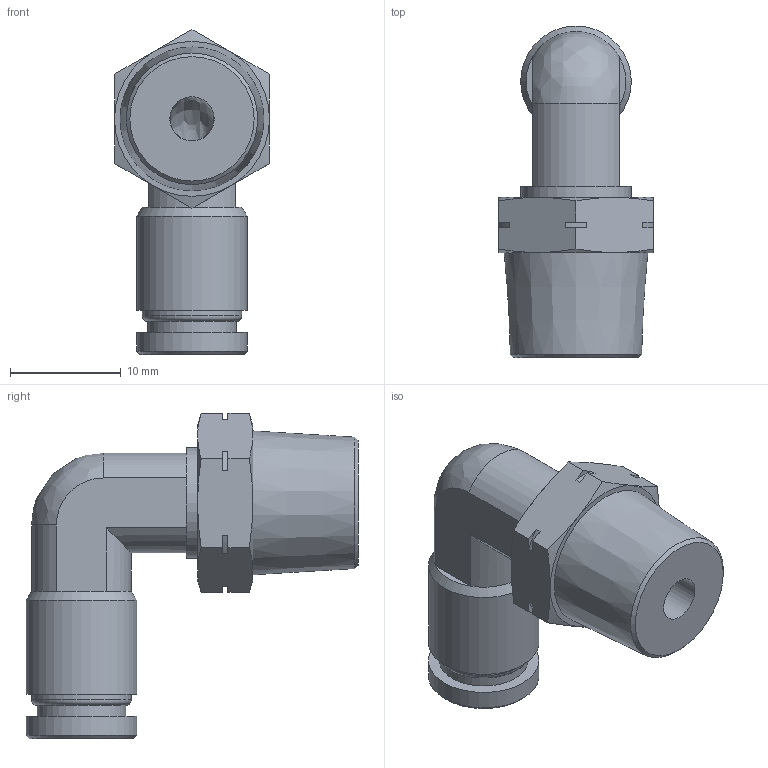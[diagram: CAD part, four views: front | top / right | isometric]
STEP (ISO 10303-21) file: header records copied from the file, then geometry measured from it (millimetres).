
FILE_DESCRIPTION(/* description */ (''),/* implementation_level */ '2;1');
FILE_NAME(/* name */ 'LXH21 0006 N2.stp',/* time_stamp */ '2026-05-01T13:26:35+02:00',/* author */ ('freju'),/* organization */ (''),/* preprocessor_version */ 'ST-DEVELOPER v20.1',/* originating_system */ 'Autodesk Inventor 2026',/* authorisation */ '');
FILE_SCHEMA (('AUTOMOTIVE_DESIGN { 1 0 10303 214 3 1 1 }'));
Length unit declared in the file: millimetre
Products named in the file (1): LXH21 0006 N2
Bounding box: 14 x 30 x 29.38 mm (x, y, z)
Volume: 3246.4 mm3; surface area: 2526.4 mm2
Topology: 1 solids, 1 shells, 67 faces, 161 edges, 100 vertices
Faces by surface type: plane 30, cylinder 18, cone 16, bspline 2, torus 1
Full cylindrical faces by diameter (mm): 4 x2, 6 x1, 8 x1, 9 x1, 10 x3
Entity records: 1987 total; most frequent: CARTESIAN_POINT 415, DIRECTION 330, ORIENTED_EDGE 318, EDGE_CURVE 159, AXIS2_PLACEMENT_3D 129, VERTEX_POINT 100, EDGE_LOOP 75, LINE 72
